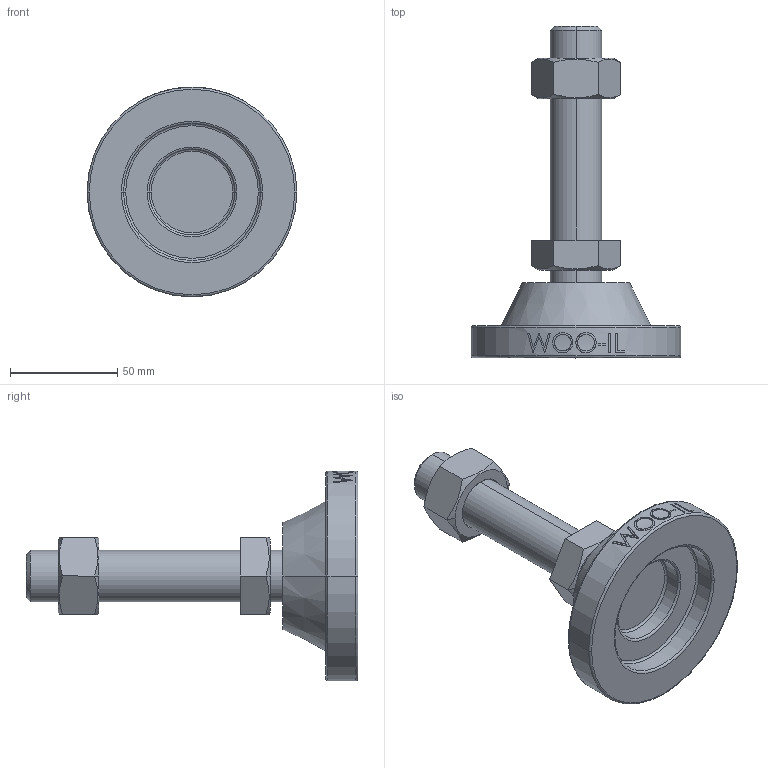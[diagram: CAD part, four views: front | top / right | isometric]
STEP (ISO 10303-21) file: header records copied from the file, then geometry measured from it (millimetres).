
FILE_DESCRIPTION (( 'STEP AP214' ), '1' );
FILE_NAME ('MFN98-M24-100.step', '2021-01-21T06:14:36', ( '' ), ( '' ), 'SwSTEP 2.0', 'SolidWorks 2019', '' );
FILE_SCHEMA (( 'AUTOMOTIVE_DESIGN' ));
Length unit declared in the file: millimetre
Products named in the file (2): MFN98-M24-100
Bounding box: 98 x 155 x 98 mm (x, y, z)
Volume: 202866.2 mm3; surface area: 40445 mm2
Topology: 2 solids, 2 shells, 111 faces, 255 edges, 162 vertices
Faces by surface type: plane 49, cylinder 20, bspline 16, cone 14, torus 12
Entity records: 4759 total; most frequent: CARTESIAN_POINT 2298, ORIENTED_EDGE 510, DIRECTION 471, EDGE_CURVE 255, AXIS2_PLACEMENT_3D 185, VERTEX_POINT 162, EDGE_LOOP 127, ADVANCED_FACE 111
